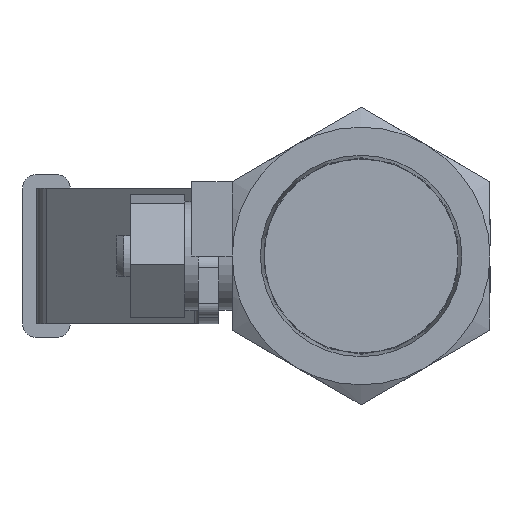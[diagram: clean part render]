
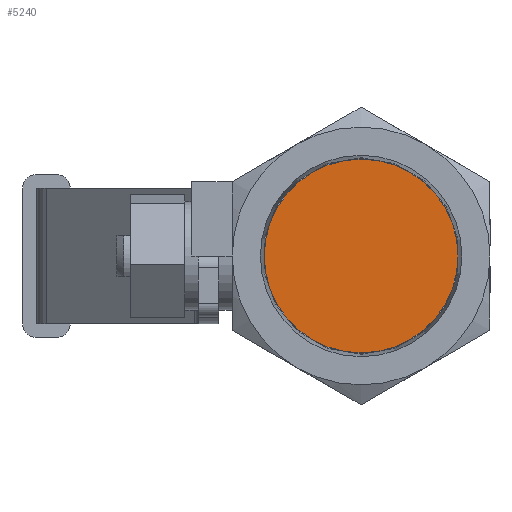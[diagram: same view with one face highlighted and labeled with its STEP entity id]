
A CAD part, left-side view. The second image highlights one B-rep face of the part: STEP entity #5240.
In plain terms, the highlighted planar face has unit normal (-1, 0, 0).
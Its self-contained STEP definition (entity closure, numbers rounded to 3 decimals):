
#142=PLANE('',#5559);
#353=FACE_OUTER_BOUND('',#644,.T.);
#644=EDGE_LOOP('',(#3431));
#2072=CIRCLE('',#5557,14.288);
#2198=VERTEX_POINT('',#7362);
#2682=EDGE_CURVE('',#2198,#2198,#2072,.T.);
#3431=ORIENTED_EDGE('',*,*,#2682,.T.);
#5240=ADVANCED_FACE('',(#353),#142,.T.);
#5557=AXIS2_PLACEMENT_3D('',#7363,#5984,#5985);
#5559=AXIS2_PLACEMENT_3D('',#7367,#5989,#5990);
#5984=DIRECTION('center_axis',(-1.,0.,0.));
#5985=DIRECTION('ref_axis',(0.,0.,
1.));
#5989=DIRECTION('center_axis',(-1.,0.,0.));
#5990=DIRECTION('ref_axis',(0.,0.,
1.));
#7362=CARTESIAN_POINT('',(-47.788,-11.264,-14.288));
#7363=CARTESIAN_POINT('Origin',(-47.788,-11.264,0.));
#7367=CARTESIAN_POINT('Origin',(-47.788,-11.264,0.));
